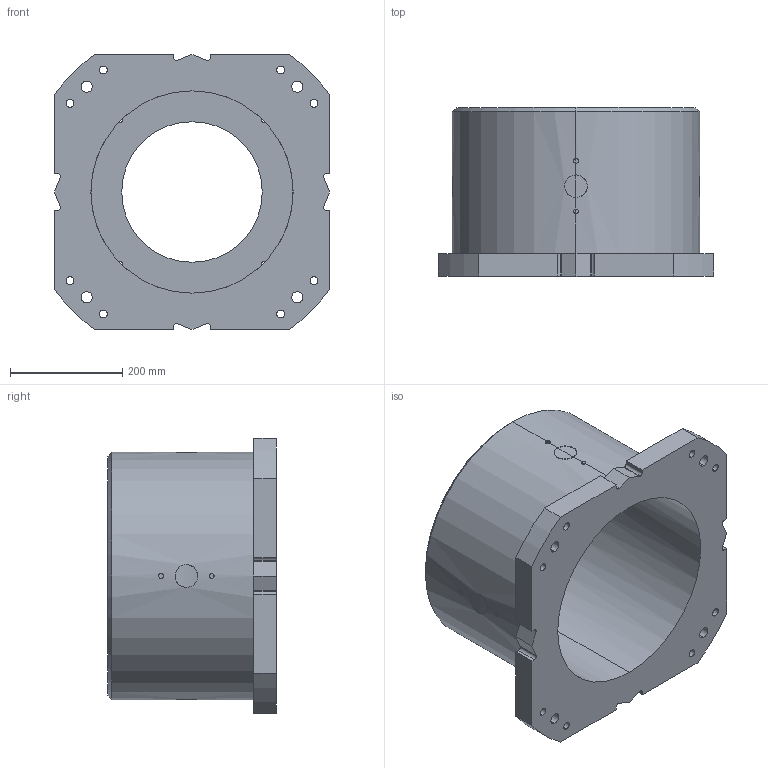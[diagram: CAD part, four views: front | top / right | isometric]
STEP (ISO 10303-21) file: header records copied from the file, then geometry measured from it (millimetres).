
FILE_DESCRIPTION (( 'STEP AP214' ), '1' );
FILE_NAME ('H-300.STEP', '2025-12-05T13:33:49', ( '' ), ( '' ), 'SwSTEP 2.0', 'SolidWorks 2022', '' );
FILE_SCHEMA (( 'AUTOMOTIVE_DESIGN' ));
Length unit declared in the file: millimetre
Products named in the file (1): H-300
Bounding box: 490 x 300 x 490 mm (x, y, z)
Volume: 19944570.9 mm3; surface area: 1145631.5 mm2
Topology: 1 solids, 1 shells, 147 faces, 405 edges, 260 vertices
Faces by surface type: cylinder 97, plane 32, cone 10, bspline 8
Entity records: 7758 total; most frequent: CARTESIAN_POINT 3511, ORIENTED_EDGE 794, DIRECTION 753, EDGE_CURVE 397, AXIS2_PLACEMENT_3D 290, VERTEX_POINT 260, EDGE_LOOP 189, VECTOR 173
